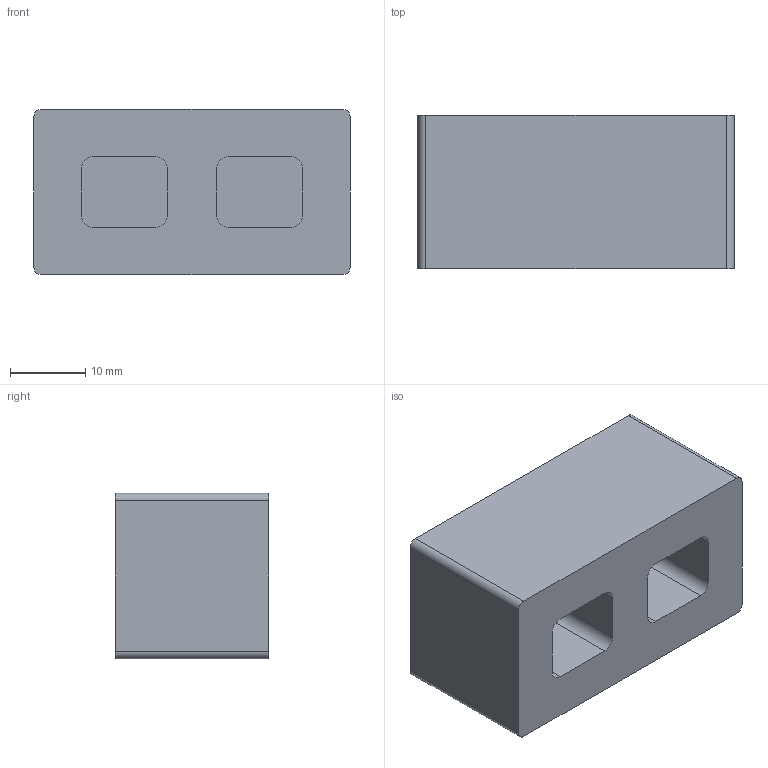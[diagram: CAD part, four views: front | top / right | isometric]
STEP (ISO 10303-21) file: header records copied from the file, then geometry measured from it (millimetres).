
FILE_DESCRIPTION(/* description */ (''),/* implementation_level */ '2;1');
FILE_NAME(/* name */ 'C:/Users/JQ/Downloads/MouldTPU.step',/* time_stamp */ '2021-08-26T21:29:51-04:00',/* author */ (''),/* organization */ (''),/* preprocessor_version */ 'ST-DEVELOPER v18.1',/* originating_system */ 'Autodesk Translation Framework v10.10.0.1391',/* authorisation */ '');
FILE_SCHEMA (('AUTOMOTIVE_DESIGN { 1 0 10303 214 3 1 1 }'));
Length unit declared in the file: millimetre
Products named in the file (1): MouldTPU
Bounding box: 42 x 20.4 x 22 mm (x, y, z)
Volume: 5576.5 mm3; surface area: 10148 mm2
Topology: 1 solids, 1 shells, 55 faces, 144 edges, 96 vertices
Faces by surface type: plane 31, cylinder 24
Entity records: 1746 total; most frequent: DIRECTION 304, CARTESIAN_POINT 296, ORIENTED_EDGE 288, EDGE_CURVE 144, AXIS2_PLACEMENT_3D 104, LINE 96, VECTOR 96, VERTEX_POINT 96
